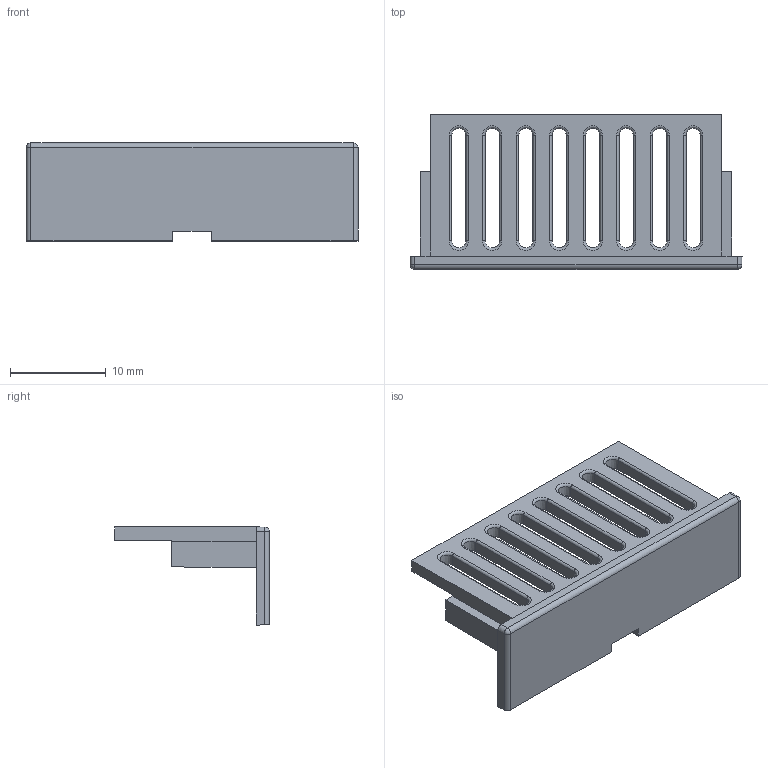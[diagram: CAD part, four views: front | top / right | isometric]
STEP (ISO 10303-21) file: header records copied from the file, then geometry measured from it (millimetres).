
FILE_DESCRIPTION(/* description */ (''),/* implementation_level */ '2;1');
FILE_NAME(/* name */ 'E:\Eng\Customer Service\Drawings\1597DIN\3D\Accessories\1597DINCOV3\1597DINCOV3 Vent.stp',/* time_stamp */ '2020-05-04T15:12:47-04:00',/* author */ ('mbeerman'),/* organization */ (''),/* preprocessor_version */ 'ST-DEVELOPER v18',/* originating_system */ 'Autodesk Inventor 2020',/* authorisation */ '');
FILE_SCHEMA (('AUTOMOTIVE_DESIGN { 1 0 10303 214 3 1 1 }'));
Length unit declared in the file: millimetre
Products named in the file (1): plate_2_mod_vent
Bounding box: 34.7 x 16.2 x 10.25 mm (x, y, z)
Volume: 946.5 mm3; surface area: 1868.4 mm2
Topology: 1 solids, 1 shells, 100 faces, 254 edges, 156 vertices
Faces by surface type: plane 45, cylinder 21, cone 16, torus 16, sphere 2
Entity records: 3061 total; most frequent: DIRECTION 546, CARTESIAN_POINT 511, ORIENTED_EDGE 508, EDGE_CURVE 254, AXIS2_PLACEMENT_3D 191, LINE 164, VECTOR 164, VERTEX_POINT 156
